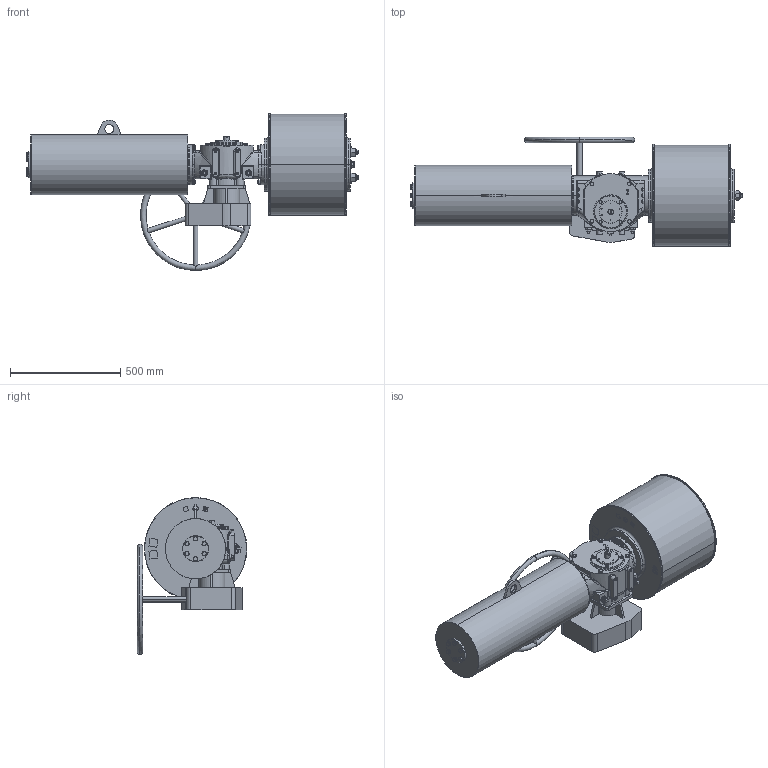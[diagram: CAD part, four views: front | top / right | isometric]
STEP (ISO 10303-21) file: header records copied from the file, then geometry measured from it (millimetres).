
FILE_DESCRIPTION (( 'STEP AP203' ), '1' );
FILE_NAME ('VTS2-450-SR-MW-FO.STEP', '2023-01-01T08:33:59', ( '' ), ( '' ), 'SwSTEP 2.0', 'SolidWorks 2020', '' );
FILE_SCHEMA (( 'CONFIG_CONTROL_DESIGN' ));
Length unit declared in the file: millimetre
Products named in the file (1): VTS2-450-SR-MW-FO
Bounding box: 1503.78 x 496.39 x 711 mm (x, y, z)
Volume: 122838429.2 mm3; surface area: 2894697.4 mm2
Topology: 27 solids, 29 shells, 2202 faces, 5435 edges, 3353 vertices
Faces by surface type: plane 837, cylinder 672, cone 539, bspline 142, torus 12
Entity records: 79433 total; most frequent: CARTESIAN_POINT 28501, ORIENTED_EDGE 10730, DIRECTION 10565, EDGE_CURVE 5365, AXIS2_PLACEMENT_3D 4144, VERTEX_POINT 3353, EDGE_LOOP 2428, VECTOR 2277
